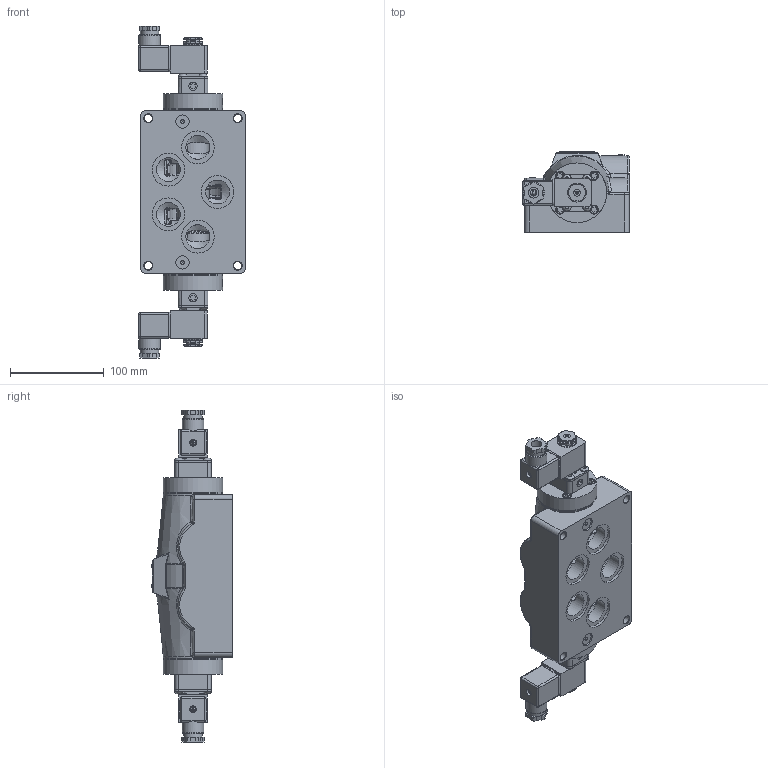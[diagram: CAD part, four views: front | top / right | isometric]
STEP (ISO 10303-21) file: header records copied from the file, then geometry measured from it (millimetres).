
FILE_DESCRIPTION(/* description */ (''),/* implementation_level */ '2;1');
FILE_NAME(/* name */ 'ESS8PACZ.stp',/* time_stamp */ '2026-09-28T07:07:27-04:00',/* author */ ('rmckenna'),/* organization */ (''),/* preprocessor_version */ 'ST-DEVELOPER v20.2',/* originating_system */ 'Autodesk Inventor 2027',/* authorisation */ '');
FILE_SCHEMA (('AUTOMOTIVE_DESIGN { 1 0 10303 214 3 1 1 }'));
Products named in the file (1): Part10
Bounding box: 113.23 x 86.27 x 353.77 mm (x, y, z)
Volume: 1277363.6 mm3; surface area: 256593.1 mm2
Topology: 1 solids, 58 shells, 3536 faces, 8866 edges, 5567 vertices
Faces by surface type: plane 1525, cylinder 1001, cone 393, bspline 304, torus 231, sphere 82
Full cylindrical faces by diameter (mm): 1.168 x20, 1.3 x2, 1.397 x2, 1.5 x2, 1.651 x2, 2.032 x16, 2.07 x2, 2.261 x2, 2.35 x8, 2.388 x2, 2.5 x2, 2.778 x2, 2.8 x2, 2.819 x2, 2.845 x4, 3 x8, 3.048 x6, 3.175 x4, 3.4 x2, 3.683 x10, 3.962 x4, 4.064 x2, 4.191 x4, 4.826 x8, 4.953 x2, 4.978 x8, 5.15 x8, 5.156 x8, 5.385 x2, 5.5 x2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
Entity records: 133176 total; most frequent: CARTESIAN_POINT 45859, ORIENTED_EDGE 17600, DIRECTION 17165, EDGE_CURVE 8800, AXIS2_PLACEMENT_3D 6464, VERTEX_POINT 5563, LINE 4237, VECTOR 4237
